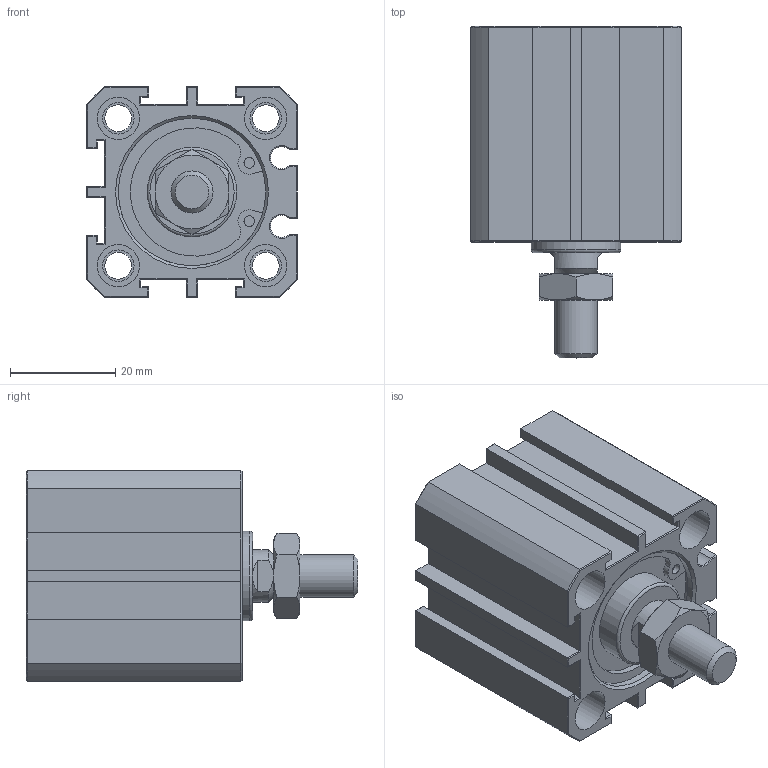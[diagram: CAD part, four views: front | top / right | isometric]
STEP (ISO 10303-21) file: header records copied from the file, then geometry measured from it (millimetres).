
FILE_DESCRIPTION(/* description */ (''),/* implementation_level */ '2;1');
FILE_NAME(/* name */ 'AJC-SDM25X10W',/* time_stamp */ '2019-06-20T15:03:35+08:00',/* author */ ('JEFF HUANG'),/* organization */ ('TAIWAN AMAC CLAMP INDUSTRIAL CO., LTD.'),/* preprocessor_version */ 'ST-DEVELOPER v16.7',/* originating_system */ 'DEX',/* authorisation */ $);
FILE_SCHEMA (('AUTOMOTIVE_DESIGN {1 0 10303 214 3 1 1}'));
Length unit declared in the file: millimetre
Products named in the file (1): AJC-SDM25X10W
Bounding box: 40 x 63 x 40 mm (x, y, z)
Volume: 51595.2 mm3; surface area: 17120 mm2
Topology: 1 solids, 1 shells, 269 faces, 588 edges, 350 vertices
Faces by surface type: plane 187, cylinder 51, cone 29, torus 2
Full cylindrical faces by diameter (mm): 2.004 x4, 5 x2, 5.1 x4, 6 x8, 8 x9, 17 x2, 28 x2
Entity records: 8923 total; most frequent: CARTESIAN_POINT 1318, DIRECTION 1174, ORIENTED_EDGE 1094, EDGE_CURVE 547, AXIS2_PLACEMENT_3D 409, LINE 356, VECTOR 356, VERTEX_POINT 345
